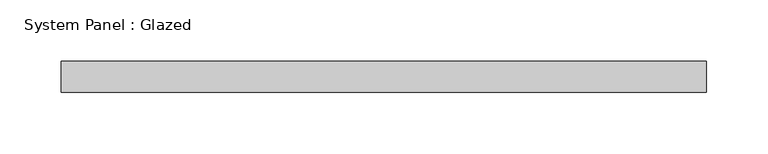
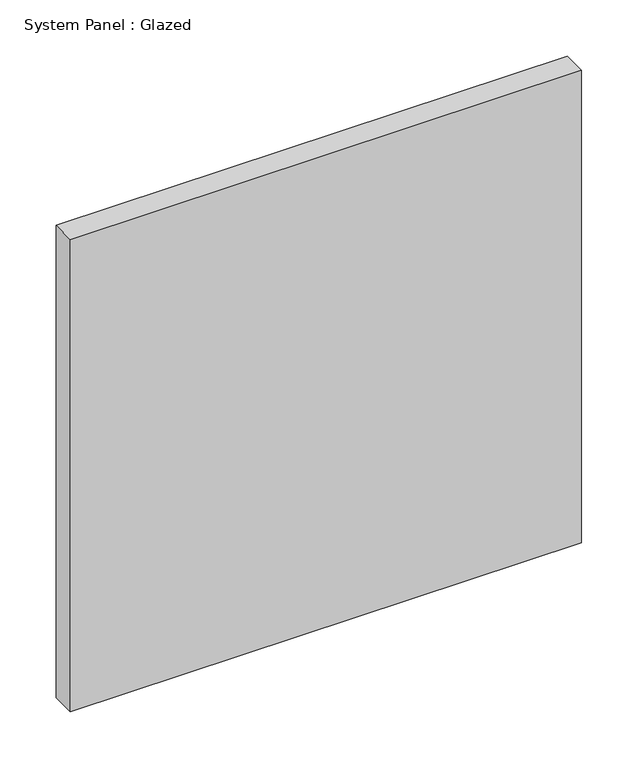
"""IFC4 building model written with IfcOpenShell, lengths in millimetres: plate geometry, System Panel : Glazed."""

from ifc_helpers import new_model, si_unit, origin, origin_with_axes, place, context, project, spatial, polyline, outline, extrude, source, transform, mapped, element, save


def system_panel_glazed_300f1d59(model_context):
    return source(origin(), model_context, "Body", "SweptSolid", [
        extrude(outline(polyline([(263.525, -44.45), (-263.525, -44.45), (-263.525, -19.05), (263.525, -19.05), (263.525, -44.45)])), origin_with_axes(), (0.0, 0.0, 1.0), 514.35),
    ])


if __name__ == "__main__":
    model = new_model("IFC4")
    model_context = context("Model", 3, world=origin())
    ifc_project = project(units=[si_unit("LENGTHUNIT", "METRE", prefix="MILLI")], contexts=[model_context])
    site = spatial("IfcSite", under=ifc_project)
    building = spatial("IfcBuilding", under=site)
    placement = place(None, origin())
    system_panel_glazed_shape = system_panel_glazed_300f1d59(model_context)
    element("IfcPlate", 1, ObjectType="System Panel : Glazed", at=placement, inside=building, context=model_context, shape_type="MappedRepresentation", body=[
        mapped(system_panel_glazed_shape, transform((0.0, 0.0, 0.0), x_axis=(1.0, 0.0, 0.0), y_axis=(0.0, 1.0, 0.0), z_axis=(0.0, 0.0, 1.0))),
    ])
    save(model, "model.ifc")
